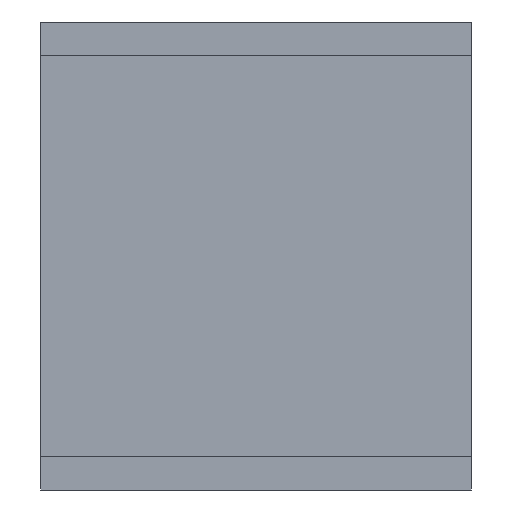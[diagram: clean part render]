
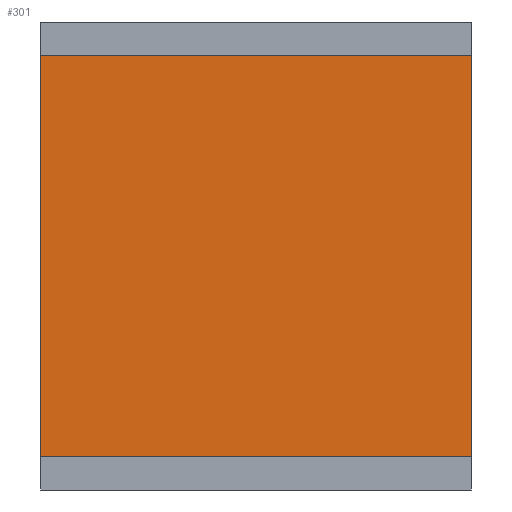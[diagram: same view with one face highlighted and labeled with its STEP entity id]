
A CAD part, front view. The second image highlights one B-rep face of the part: STEP entity #301.
In plain terms, the highlighted planar face has unit normal (0, -1, 0).
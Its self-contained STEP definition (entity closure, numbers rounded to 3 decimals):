
#27 = VECTOR ( 'NONE', #160, 1000. ) ;
#33 = FACE_OUTER_BOUND ( 'NONE', #340, .T. ) ;
#42 = ORIENTED_EDGE ( 'NONE', *, *, #171, .F. ) ;
#52 = CARTESIAN_POINT ( 'NONE',  ( -15., 14., 16.3 ) ) ;
#67 = PLANE ( 'NONE',  #94 ) ;
#94 = AXIS2_PLACEMENT_3D ( 'NONE', #367, #374, #289 ) ;
#96 = LINE ( 'NONE', #146, #249 ) ;
#102 = EDGE_CURVE ( 'NONE', #538, #134, #512, .T. ) ;
#104 = CARTESIAN_POINT ( 'NONE',  ( 15., 14., 14. ) ) ;
#134 = VERTEX_POINT ( 'NONE', #144 ) ;
#139 = VERTEX_POINT ( 'NONE', #224 ) ;
#144 = CARTESIAN_POINT ( 'NONE',  ( -15., 14., -14. ) ) ;
#146 = CARTESIAN_POINT ( 'NONE',  ( 15., 14., 16.3 ) ) ;
#160 = DIRECTION ( 'NONE',  ( -1., 0., 0. ) ) ;
#171 = EDGE_CURVE ( 'NONE', #180, #139, #96, .T. ) ;
#180 = VERTEX_POINT ( 'NONE', #104 ) ;
#224 = CARTESIAN_POINT ( 'NONE',  ( 15., 14., -14. ) ) ;
#232 = ORIENTED_EDGE ( 'NONE', *, *, #355, .F. ) ;
#249 = VECTOR ( 'NONE', #395, 1000. ) ;
#262 = EDGE_CURVE ( 'NONE', #180, #538, #401, .T. ) ;
#265 = DIRECTION ( 'NONE',  ( 0., 0., -1. ) ) ;
#289 = DIRECTION ( 'NONE',  ( 0., 0., 1. ) ) ;
#301 = ADVANCED_FACE ( 'NONE', ( #33 ), #67, .F. ) ;
#303 = ORIENTED_EDGE ( 'NONE', *, *, #102, .T. ) ;
#340 = EDGE_LOOP ( 'NONE', ( #303, #232, #42, #423 ) ) ;
#355 = EDGE_CURVE ( 'NONE', #139, #134, #377, .T. ) ;
#367 = CARTESIAN_POINT ( 'NONE',  ( 15., 14., 16.3 ) ) ;
#369 = CARTESIAN_POINT ( 'NONE',  ( -15., 14., 14. ) ) ;
#373 = VECTOR ( 'NONE', #531, 1000. ) ;
#374 = DIRECTION ( 'NONE',  ( 0., 1., 0. ) ) ;
#377 = LINE ( 'NONE', #487, #27 ) ;
#395 = DIRECTION ( 'NONE',  ( 0., 0., -1. ) ) ;
#401 = LINE ( 'NONE', #497, #373 ) ;
#423 = ORIENTED_EDGE ( 'NONE', *, *, #262, .T. ) ;
#487 = CARTESIAN_POINT ( 'NONE',  ( 15., 14., -14. ) ) ;
#497 = CARTESIAN_POINT ( 'NONE',  ( 15., 14., 14. ) ) ;
#512 = LINE ( 'NONE', #52, #522 ) ;
#522 = VECTOR ( 'NONE', #265, 1000. ) ;
#531 = DIRECTION ( 'NONE',  ( -1., 0., 0. ) ) ;
#538 = VERTEX_POINT ( 'NONE', #369 ) ;
